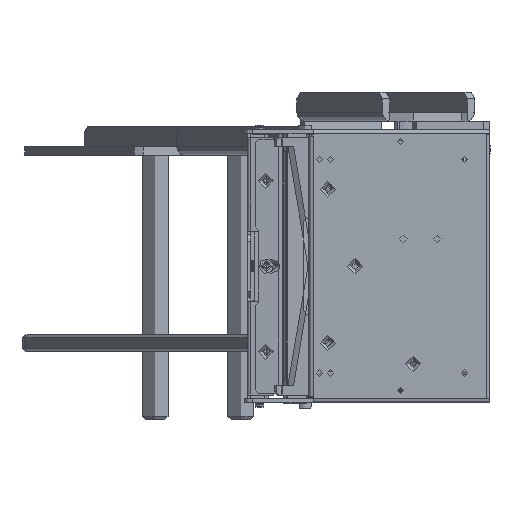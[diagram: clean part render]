
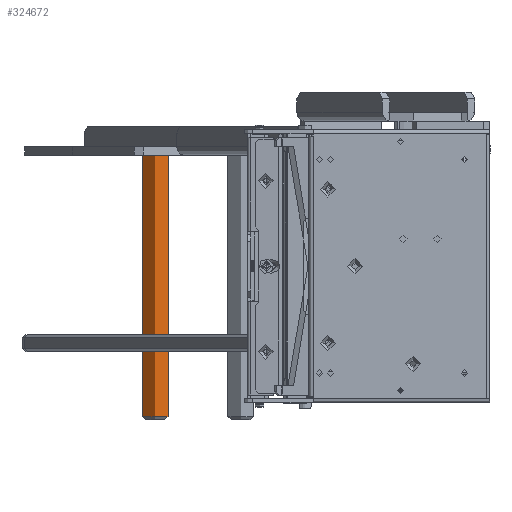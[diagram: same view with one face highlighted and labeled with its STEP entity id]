
A CAD part, left-side view. The second image highlights one B-rep face of the part: STEP entity #324672.
In plain terms, the highlighted cylindrical face has radius 4.763 mm (diameter 9.525 mm), a full revolution.
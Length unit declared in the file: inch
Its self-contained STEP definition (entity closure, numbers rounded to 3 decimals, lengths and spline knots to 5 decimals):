
#21647 = DIRECTION ( 'NONE',  ( 0., 0., 1. ) ) ;
#52458 = EDGE_LOOP ( 'NONE', ( #213784 ) ) ;
#56456 = FACE_OUTER_BOUND ( 'NONE', #52458, .T. ) ;
#61174 = DIRECTION ( 'NONE',  ( 1., 0., 0. ) ) ;
#78707 = AXIS2_PLACEMENT_3D ( 'NONE', #234872, #21647, #206095 ) ;
#89167 = AXIS2_PLACEMENT_3D ( 'NONE', #189721, #157124, #366211 ) ;
#106529 = ORIENTED_EDGE ( 'NONE', *, *, #258541, .T. ) ;
#122989 = CIRCLE ( 'NONE', #208784, 0.1875 ) ;
#157124 = DIRECTION ( 'NONE',  ( 0., 0., 1. ) ) ;
#159096 = VERTEX_POINT ( 'NONE', #279261 ) ;
#165925 = EDGE_LOOP ( 'NONE', ( #106529 ) ) ;
#184677 = EDGE_CURVE ( 'NONE', #159096, #159096, #345431, .T. ) ;
#189721 = CARTESIAN_POINT ( 'NONE',  ( 11.20391, 4.93024, -4.187 ) ) ;
#206095 = DIRECTION ( 'NONE',  ( 1., 0., 0. ) ) ;
#208784 = AXIS2_PLACEMENT_3D ( 'NONE', #303023, #333085, #61174 ) ;
#213784 = ORIENTED_EDGE ( 'NONE', *, *, #184677, .T. ) ;
#234872 = CARTESIAN_POINT ( 'NONE',  ( 11.20391, 4.93024, -4.137 ) ) ;
#258541 = EDGE_CURVE ( 'NONE', #289246, #289246, #122989, .T. ) ;
#279261 = CARTESIAN_POINT ( 'NONE',  ( 11.39141, 4.93024, -4.137 ) ) ;
#289246 = VERTEX_POINT ( 'NONE', #304609 ) ;
#290215 = FACE_OUTER_BOUND ( 'NONE', #165925, .T. ) ;
#303023 = CARTESIAN_POINT ( 'NONE',  ( 11.20391, 4.93024, -0.312 ) ) ;
#304609 = CARTESIAN_POINT ( 'NONE',  ( 11.39141, 4.93024, -0.312 ) ) ;
#317850 = CYLINDRICAL_SURFACE ( 'NONE', #89167, 0.1875 ) ;
#324672 = ADVANCED_FACE ( 'NONE', ( #56456, #290215 ), #317850, .T. ) ;
#333085 = DIRECTION ( 'NONE',  ( 0., 0., -1. ) ) ;
#345431 = CIRCLE ( 'NONE', #78707, 0.1875 ) ;
#366211 = DIRECTION ( 'NONE',  ( 1., 0., 0. ) ) ;
